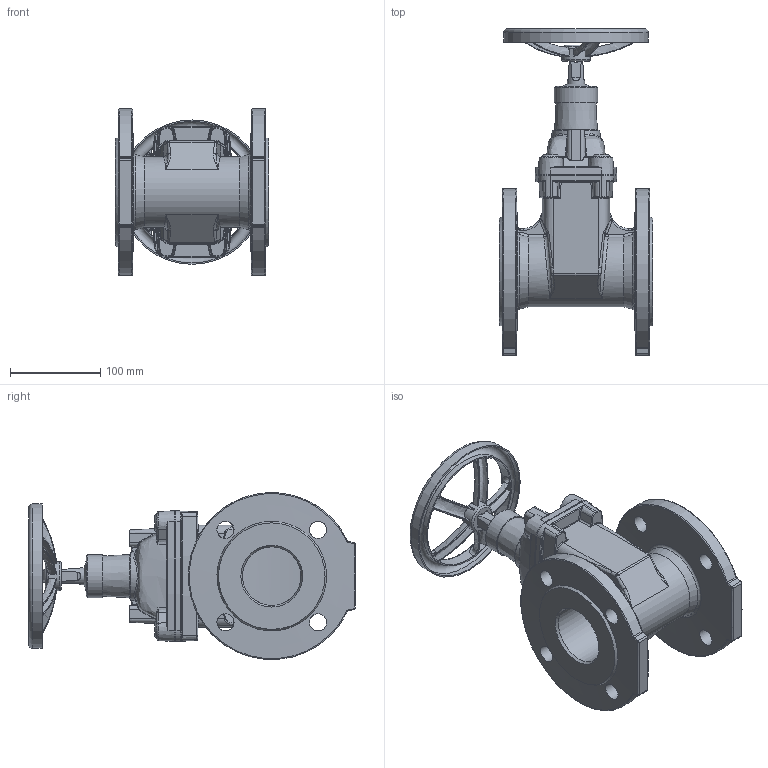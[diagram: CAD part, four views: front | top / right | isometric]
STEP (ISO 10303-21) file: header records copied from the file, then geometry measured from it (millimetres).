
FILE_DESCRIPTION (( 'STEP AP203' ), '1' );
FILE_NAME ('20.DN065.STEP', '2013-01-17T09:16:32', ( 'luca.saino' ), ( 'Hewlett-Packard Company' ), 'SwSTEP 2.0', 'SolidWorks 2012', '' );
FILE_SCHEMA (( 'CONFIG_CONTROL_DESIGN' ));
Products named in the file (1): 20.DN065
Bounding box: 170 x 361.79 x 184.65 mm (x, y, z)
Volume: 2448943.6 mm3; surface area: 316476.8 mm2
Topology: 1 solids, 11 shells, 1051 faces, 2601 edges, 1540 vertices
Faces by surface type: plane 286, bspline 284, cylinder 248, torus 130, cone 75, sphere 28
Full cylindrical faces by diameter (mm): 5 x2, 6 x1, 6.5 x4, 6.8 x2, 8 x5, 8.5 x4, 10 x4, 11 x4, 16 x4, 18 x4, 19 x10, 21 x4, 32 x1, 48 x1, 65 x2, 130 x1, 133 x1, 157 x1, 160 x1
Entity records: 50640 total; most frequent: CARTESIAN_POINT 28759, ORIENTED_EDGE 4778, DIRECTION 4088, EDGE_CURVE 2389, AXIS2_PLACEMENT_3D 1657, VERTEX_POINT 1491, EDGE_LOOP 1228, FACE_OUTER_BOUND 1124
